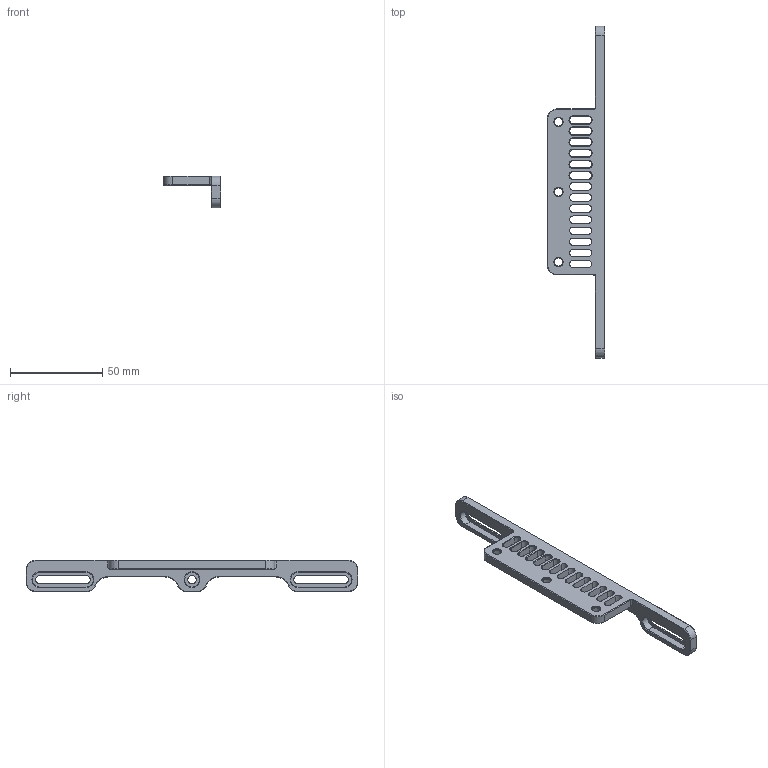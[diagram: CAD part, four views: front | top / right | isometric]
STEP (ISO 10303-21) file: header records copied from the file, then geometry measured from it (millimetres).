
FILE_DESCRIPTION (( 'STEP AP203' ), '1' );
FILE_NAME ('樓詢啣.STEP', '2026-10-12T01:25:10', ( '' ), ( '' ), 'SwSTEP 2.0', 'SolidWorks 2024', '' );
FILE_SCHEMA (( 'CONFIG_CONTROL_DESIGN' ));
Length unit declared in the file: millimetre
Products named in the file (1): 加高板
Bounding box: 31 x 180 x 17 mm (x, y, z)
Volume: 17056.7 mm3; surface area: 12575 mm2
Topology: 1 solids, 1 shells, 281 faces, 683 edges, 410 vertices
Faces by surface type: plane 111, cone 88, cylinder 82
Entity records: 8282 total; most frequent: DIRECTION 1501, CARTESIAN_POINT 1381, ORIENTED_EDGE 1366, EDGE_CURVE 683, AXIS2_PLACEMENT_3D 538, LINE 425, VECTOR 425, VERTEX_POINT 410
